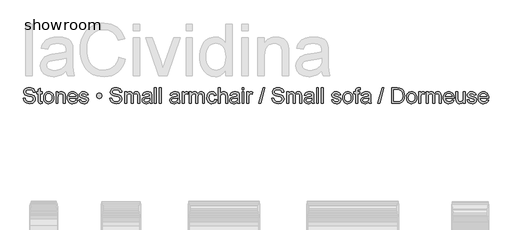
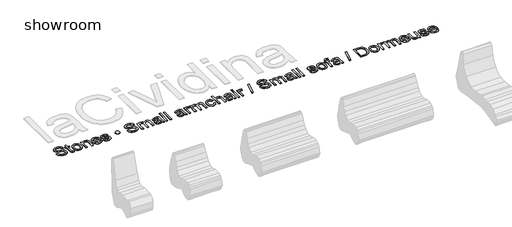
# One storey, part 2 of 2: 1 proxy.
"""IFC4 building model written with IfcOpenShell, lengths in millimetres."""

from ifc_helpers import new_model, si_unit, origin, origin_with_axes, place, context, project, spatial, polyline, outline, extrude, element, save

model = new_model("IFC4")

# Units and contexts
model_context = context("Model", 3, world=origin())
ifc_project = project(units=[si_unit("LENGTHUNIT", "METRE", prefix="MILLI")], contexts=[model_context])

# Site, building, storey
site = spatial("IfcSite", under=ifc_project)
building = spatial("IfcBuilding", under=site)
storey = spatial("IfcBuildingStorey", under=building, Name="showroom", Elevation=0.0)

# Proxy
placement = place(None, origin())
element("IfcBuildingElementProxy", 1, Name="300mm Arial", ObjectType="300mm Arial", at=placement, inside=storey, context=model_context, shape_type="SweptSolid", body=[
    extrude(outline(polyline([(-2004.4887662, 4263.6976505), (-1966.8176499, 4263.6976505), (-1962.4950365, 4242.7927561), (-1954.6775441, 4225.989746), (-1942.482256, 4212.6540237), (-1925.0262553, 4202.1509927), (-1903.6890996, 4195.3359788), (-1879.8503463, 4193.0643074), (-1858.8626785, 4194.7841558), (-1840.4869728, 4199.9437007), (-1825.596949, 4208.110681), (-1815.0663269, 4218.8528353), (-1808.803136, 4231.1860792), (-1806.7154056, 4244.1263284), (-1808.2789041, 4256.7354838), (-1812.9693996, 4267.6339879), (-1822.4975432, 4276.9322053), (-1838.5739864, 4284.7405006), (-1893.4251919, 4299.1246866), (-1929.4316422, 4308.6436333), (-1952.4702521, 4317.7027274), (-1971.2230368, 4330.3762621), (-1984.5127739, 4345.7353354), (-1992.4314339, 4363.4488535), (-1995.0709872, 4383.1857225), (-1991.8060345, 4405.2494452), (-1982.0111763, 4425.8232458), (-1965.9439302, 4443.2608524), (-1943.8618134, 4455.915993), (-1917.3559157, 4463.6139237), (-1888.0173266, 4466.1799007), (-1856.2323222, 4463.4943621), (-1828.4204434, 4455.4377464), (-1805.5749715, 4442.1756005), (-1788.6891879, 4423.8734712), (-1778.0022159, 4401.6717928), (-1773.7531789, 4376.7109994), (-1811.4242952, 4376.7109994), (-1818.3404767, 4399.1885893), (-1832.7614509, 4415.4121853), (-1855.2942231, 4425.2346346), (-1886.5457986, 4428.5087844), (-1918.5331381, 4425.2714228), (-1940.4772991, 4415.5593381), (-1953.1692279, 4401.2671226), (-1957.3998709, 4384.2893685), (-1954.4016326, 4369.813212), (-1945.4069178, 4358.1697469), (-1924.1433385, 4347.7586864), (-1883.8970482, 4337.1268968), (-1842.363171, 4327.028536), (-1817.2368307, 4318.2177622), (-1795.7617192, 4304.5509461), (-1780.779725, 4287.6835566), (-1771.9781482, 4267.7995348), (-1769.0442893, 4245.0828216), (-1772.4196066, 4221.8602706), (-1782.5455586, 4200.0172771), (-1799.0082778, 4181.2185072), (-1821.3938973, 4167.1286268), (-1848.3136622, 4158.32705), (-1878.3788183, 4155.3931911), (-1915.2865795, 4158.5569763), (-1945.6644352, 4168.0483318), (-1969.8618735, 4183.9040458), (-1988.2283821, 4206.1609065), (-2000.019, 4233.2738095), (-2004.4887662, 4263.6976505)])), origin_with_axes(), (0.0, 0.0, 1.0), 5.0),
    extrude(outline(polyline([(-1637.1953823, 4191.5192031), (-1632.4864927, 4158.9984347), (-1660.6662536, 4155.3931911), (-1678.7476536, 4156.9566896), (-1692.2305287, 4161.6471851), (-1701.7586724, 4168.8760663), (-1707.9758781, 4178.054722), (-1711.3971807, 4193.8184655), (-1712.5376149, 4220.8026099), (-1712.5376149, 4343.7487727), (-1740.7909521, 4343.7487727), (-1740.7909521, 4381.419889), (-1712.5376149, 4381.419889), (-1712.5376149, 4435.2042367), (-1674.8664986, 4457.3507328), (-1674.8664986, 4381.419889), (-1637.1953823, 4381.419889), (-1637.1953823, 4343.7487727), (-1674.8664986, 4343.7487727), (-1674.8664986, 4221.9062559), (-1672.8799358, 4202.4820865), (-1666.4420009, 4195.6026932), (-1653.6029193, 4193.0643074), (-1637.1953823, 4191.5192031)])), origin_with_axes(), (0.0, 0.0, 1.0), 5.0),
    extrude(outline(polyline([(-1608.942045, 4270.7609848), (-1606.9048985, 4299.4235908), (-1600.7934588, 4324.1222682), (-1590.6077261, 4344.8570172), (-1576.3477003, 4361.6278376), (-1561.9911054, 4372.3469993), (-1546.1445885, 4380.0035433), (-1528.8081494, 4384.5974697), (-1509.9817883, 4386.1287785), (-1489.1987549, 4384.2640766), (-1470.4068827, 4378.6699711), (-1453.6061718, 4369.3464617), (-1438.7966223, 4356.2935487), (-1426.7093995, 4339.9526903), (-1418.0756689, 4320.765345), (-1412.8954305, 4298.7315128), (-1411.1686844, 4273.8511936), (-1414.222105, 4235.7938012), (-1423.3823667, 4206.8230941), (-1438.382755, 4185.1272534), (-1458.9565556, 4168.8944604), (-1483.3931171, 4158.7685084), (-1509.9817883, 4155.3931911), (-1531.0683244, 4157.2509952), (-1550.0349406, 4162.8244074), (-1566.8816367, 4172.1134278), (-1581.6084128, 4185.1180563), (-1593.5668769, 4201.6175638), (-1602.108637, 4221.3912211), (-1607.233693, 4244.4390281), (-1608.942045, 4270.7609848)]), holes=[polyline([(-1571.2709287, 4270.8345612), (-1566.9115271, 4236.7410973), (-1553.8333222, 4212.4516886), (-1534.1516354, 4197.9111527), (-1509.9817883, 4193.0643074), (-1485.9223058, 4197.9387439), (-1466.2774073, 4212.5620532), (-1453.1992024, 4237.1733587), (-1448.8398007, 4272.0117836), (-1453.2267935, 4305.1119661), (-1466.3877719, 4329.0702811), (-1486.0602616, 4343.6108169), (-1509.9817883, 4348.4576622), (-1534.1516354, 4343.629211), (-1553.8333222, 4329.1438575), (-1566.9115271, 4304.909631), (-1571.2709287, 4270.8345612)])]), origin_with_axes(), (0.0, 0.0, 1.0), 5.0),
    extrude(outline(polyline([(-1368.7886786, 4160.1020807), (-1368.7886786, 4381.419889), (-1331.1175623, 4381.419889), (-1331.1175623, 4350.5178014), (-1318.0301603, 4366.0976039), (-1302.3124021, 4377.2260342), (-1283.9642875, 4383.9030924), (-1262.9858168, 4386.1287785), (-1244.4169731, 4384.3353538), (-1227.4116278, 4378.9550796), (-1213.2297769, 4370.6593406), (-1203.1314162, 4360.1195214), (-1191.8374389, 4332.4180072), (-1189.8508761, 4295.9976897), (-1189.8508761, 4160.1020807), (-1227.5219924, 4160.1020807), (-1227.5219924, 4290.9209182), (-1231.863, 4324.2510269), (-1237.8686736, 4334.1746437), (-1247.2036792, 4341.8725745), (-1259.1690411, 4346.8113903), (-1273.0657834, 4348.4576622), (-1295.1295061, 4344.7604482), (-1313.9374731, 4333.668806), (-1321.4537621, 4324.6143104), (-1326.82254, 4312.2396798), (-1331.1175623, 4277.5300135), (-1331.1175623, 4160.1020807), (-1368.7886786, 4160.1020807)])), origin_with_axes(), (0.0, 0.0, 1.0), 5.0),
    extrude(outline(polyline([(-983.1011948, 4226.0265342), (-946.1658425, 4221.3176447), (-959.4739737, 4193.4873717), (-980.7099619, 4172.6836449), (-1009.3955604, 4159.7158046), (-1045.0525228, 4155.3931911), (-1068.4268251, 4157.257893), (-1089.2535445, 4162.8519986), (-1107.5326812, 4172.1755079), (-1123.264235, 4185.2284209), (-1135.9147771, 4201.6474542), (-1144.9508786, 4221.0693243), (-1150.3725395, 4243.4940312), (-1152.1797598, 4268.9215748), (-1150.3541454, 4295.2113419), (-1144.8773022, 4318.3833091), (-1135.7492302, 4338.4374764), (-1122.9699294, 4355.3738437), (-1107.2797623, 4368.8291277), (-1089.4190914, 4378.4400448), (-1069.3879168, 4384.2065951), (-1047.1862384, 4386.1287785), (-1025.6996306, 4384.2111936), (-1006.2685635, 4378.4584389), (-988.893037, 4368.8705144), (-973.5730512, 4355.4474201), (-961.0673626, 4338.547841), (-952.1347279, 4318.5304619), (-946.7751471, 4295.3952829), (-944.9886201, 4269.142304), (-945.2093493, 4258.988761), (-1114.5086435, 4258.988761), (-1107.9879352, 4230.790606), (-1092.840394, 4210.0604556), (-1070.9790064, 4197.3133445), (-1044.3167588, 4193.0643074), (-1024.2671901, 4195.0324761), (-1007.3814065, 4200.9369821), (-993.6594081, 4211.1457075), (-983.1011948, 4226.0265342)]), holes=[polyline([(-1114.5086435, 4296.6598773), (-982.6597364, 4296.6598773), (-987.7549021, 4316.5622932), (-997.7428982, 4330.7993264), (-1019.7054534, 4344.0430783), (-1047.3333912, 4348.4576622), (-1072.7264459, 4344.9351921), (-1093.7233108, 4334.3677818), (-1108.3190289, 4317.8958655), (-1114.5086435, 4296.6598773)])]), origin_with_axes(), (0.0, 0.0, 1.0), 5.0),
    extrude(outline(polyline([(-921.4441724, 4226.0265342), (-883.7730561, 4230.7354237), (-877.8317619, 4214.6221924), (-866.3354496, 4202.7763921), (-849.2105427, 4195.4923286), (-826.3834649, 4193.0643074), (-803.8322986, 4195.2899935), (-787.9765846, 4201.9670517), (-778.5955937, 4211.6423482), (-775.4685968, 4222.862749), (-778.6139878, 4232.4644691), (-788.050161, 4239.7853208), (-826.8249233, 4250.5274751), (-883.5523269, 4268.958363), (-897.9089218, 4278.2197923), (-908.3107852, 4290.4794598), (-914.6291585, 4304.9556163), (-916.7352829, 4320.8665126), (-915.0430257, 4335.4622307), (-909.9662542, 4348.9359088), (-901.9648208, 4360.7541179), (-891.498578, 4370.3834291), (-867.5494602, 4381.5302536), (-835.1390564, 4386.1287785), (-810.6197214, 4384.2801715), (-789.3009598, 4378.7343504), (-772.1576588, 4370.0339412), (-760.1647058, 4358.7215699), (-752.2184547, 4343.9603048), (-747.2152595, 4324.9132145), (-784.8863758, 4320.204325), (-789.6412506, 4332.0593223), (-799.0498327, 4340.9896577), (-813.2040924, 4346.5906611), (-832.1960004, 4348.4576622), (-853.8274617, 4346.6734345), (-868.2484359, 4341.3207515), (-876.3602339, 4333.5952296), (-879.0641666, 4324.6924853), (-874.5760063, 4313.7296019), (-860.522914, 4305.4154688), (-828.0757221, 4297.3956413), (-772.7830582, 4279.6637291), (-758.178143, 4271.1840491), (-747.1048949, 4259.5773722), (-740.1243341, 4244.8069101), (-737.7974805, 4226.8358746), (-740.5290043, 4208.2578338), (-748.7235757, 4190.7834391), (-762.0684951, 4175.7830507), (-780.2510627, 4164.6270292), (-802.2136178, 4157.7016507), (-826.8984997, 4155.3931911), (-864.8823157, 4159.8445633), (-892.602224, 4173.1986797), (-911.1066884, 4195.3083876), (-921.4441724, 4226.0265342)])), origin_with_axes(), (0.0, 0.0, 1.0), 5.0),
    extrude(outline(polyline([(-582.4041257, 4306.1512328), (-578.596547, 4326.0444516), (-567.1738111, 4342.7554913), (-550.4351803, 4354.0954538), (-530.6799172, 4357.8754413), (-510.8142894, 4354.0954538), (-494.0388705, 4342.7554913), (-482.6161345, 4326.0444516), (-478.8085559, 4306.1512328), (-482.6161345, 4286.285605), (-494.0388705, 4269.510186), (-510.8142894, 4258.0874501), (-530.6799172, 4254.2798714), (-550.4351803, 4258.0874501), (-567.1738111, 4269.510186), (-578.596547, 4286.285605), (-582.4041257, 4306.1512328)])), origin_with_axes(), (0.0, 0.0, 1.0), 5.0),
    extrude(outline(polyline([(-323.4152011, 4263.6976505), (-285.7440848, 4263.6976505), (-281.4214713, 4242.7927561), (-273.6039789, 4225.989746), (-261.4086908, 4212.6540237), (-243.9526901, 4202.1509927), (-222.6155344, 4195.3359788), (-198.7767811, 4193.0643074), (-177.7891133, 4194.7841558), (-159.4134076, 4199.9437007), (-144.5233839, 4208.110681), (-133.9927618, 4218.8528353), (-127.7295708, 4231.1860792), (-125.6418405, 4244.1263284), (-127.205339, 4256.7354838), (-131.8958344, 4267.6339879), (-141.4239781, 4276.9322053), (-157.5004213, 4284.7405006), (-212.3516267, 4299.1246866), (-248.358077, 4308.6436333), (-271.396687, 4317.7027274), (-290.1494717, 4330.3762621), (-303.4392088, 4345.7353354), (-311.3578687, 4363.4488535), (-313.997422, 4383.1857225), (-310.7324693, 4405.2494452), (-300.9376112, 4425.8232458), (-284.870365, 4443.2608524), (-262.7882483, 4455.915993), (-236.2823505, 4463.6139237), (-206.9437614, 4466.1799007), (-175.158757, 4463.4943621), (-147.3468782, 4455.4377464), (-124.5014063, 4442.1756005), (-107.6156227, 4423.8734712), (-96.9286508, 4401.6717928), (-92.6796137, 4376.7109994), (-130.35073, 4376.7109994), (-137.2669115, 4399.1885893), (-151.6878857, 4415.4121853), (-174.2206579, 4425.2346346), (-205.4722334, 4428.5087844), (-237.4595729, 4425.2714228), (-259.4037339, 4415.5593381), (-272.0956628, 4401.2671226), (-276.3263057, 4384.2893685), (-273.3280674, 4369.813212), (-264.3333527, 4358.1697469), (-243.0697733, 4347.7586864), (-202.8234831, 4337.1268968), (-161.2896058, 4327.028536), (-136.1632655, 4318.2177622), (-114.6881541, 4304.5509461), (-99.7061598, 4287.6835566), (-90.9045831, 4267.7995348), (-87.9707242, 4245.0828216), (-91.3460415, 4221.8602706), (-101.4719934, 4200.0172771), (-117.9347127, 4181.2185072), (-140.3203321, 4167.1286268), (-167.2400971, 4158.32705), (-197.3052531, 4155.3931911), (-234.2130143, 4158.5569763), (-264.5908701, 4168.0483318), (-288.7883083, 4183.9040458), (-307.1548169, 4206.1609065), (-318.9454348, 4233.2738095), (-323.4152011, 4263.6976505)])), origin_with_axes(), (0.0, 0.0, 1.0), 5.0),
    extrude(outline(polyline([(-36.1729393, 4160.1020807), (-36.1729393, 4381.419889), (1.4981771, 4381.419889), (1.4981771, 4344.9995714), (12.8289425, 4361.7290052), (27.3970695, 4374.8348013), (44.7059174, 4383.3052842), (64.2588454, 4386.1287785), (85.2097251, 4383.2501019), (102.0035381, 4374.6140721), (114.5483142, 4360.7909061), (122.7520827, 4342.3508211), (136.4832781, 4361.5036775), (152.1458541, 4375.1842892), (169.7398105, 4383.3926562), (189.2651474, 4386.1287785), (217.582864, 4381.5762388), (238.5245465, 4367.9186197), (251.4647957, 4344.7880393), (255.7782121, 4311.8166155), (255.7782121, 4160.1020807), (218.1070958, 4160.1020807), (218.1070958, 4295.6298077), (214.6122169, 4327.0837183), (209.7009922, 4335.7565363), (201.9570762, 4342.5715503), (191.9966712, 4346.9861342), (180.4359795, 4348.4576622), (160.0277258, 4344.6868718), (143.3902626, 4333.3745004), (132.3262116, 4313.747996), (128.6381946, 4285.0348062), (128.6381946, 4160.1020807), (90.9670783, 4160.1020807), (90.9670783, 4299.8236624), (88.7873775, 4321.12403), (82.248275, 4336.3175564), (70.7427656, 4345.4226357), (53.663844, 4348.4576622), (39.1508993, 4346.4343112), (25.7783887, 4340.3642583), (14.7419289, 4330.3946562), (7.2371362, 4316.6726578), (2.9329168, 4297.6347646), (1.4981771, 4271.717478), (1.4981771, 4160.1020807), (-36.1729393, 4160.1020807)])), origin_with_axes(), (0.0, 0.0, 1.0), 5.0),
    extrude(outline(polyline([(453.5515727, 4188.3554179), (435.5529461, 4172.9227682), (417.0208906, 4162.8244074), (397.5323419, 4157.2509952), (376.6642357, 4155.3931911), (345.182734, 4159.8629574), (321.960183, 4173.2722561), (307.6403764, 4193.6345245), (302.8671075, 4218.9631999), (304.6697293, 4234.5797906), (310.0775946, 4248.7616415), (318.4193188, 4260.9017474), (329.0235174, 4270.3931028), (355.4006564, 4282.7539379), (387.9950012, 4288.4193206), (426.5122461, 4294.3790089), (453.3308435, 4301.3687668), (453.5515727, 4309.7564763), (450.9580047, 4326.5686835), (443.1773005, 4337.5683551), (425.7764821, 4345.7353354), (401.5330586, 4348.4576622), (379.0922569, 4346.6458434), (363.4204839, 4341.2103869), (352.7335119, 4331.1580114), (345.2471133, 4315.4954354), (307.575997, 4320.204325), (314.1150995, 4340.8057167), (323.8731694, 4356.9925245), (337.7607147, 4369.3717536), (356.6882434, 4378.5504094), (379.8372179, 4384.2341862), (406.3891009, 4386.1287785), (431.8557321, 4384.4549154), (452.0432565, 4379.4333262), (467.2643741, 4371.8825482), (477.8317844, 4362.621119), (484.8399364, 4351.1707919), (489.3832791, 4337.0533204), (491.222689, 4304.0910936), (491.222689, 4257.2229274), (493.1356754, 4191.7767205), (500.6404681, 4160.1020807), (462.9693518, 4160.1020807), (453.5515727, 4188.3554179)]), holes=[polyline([(453.5515727, 4263.6976505), (392.7774671, 4252.1461559), (360.3670633, 4246.0393147), (345.6885717, 4236.1065009), (340.5382238, 4221.6119503), (343.343324, 4210.4099435), (351.7586247, 4201.2312877), (365.6001847, 4195.1060525), (384.6840632, 4193.0643074), (404.917573, 4195.3175847), (422.7966379, 4202.0774163), (437.2911885, 4212.0378213), (447.3711552, 4223.8928186), (451.8409214, 4236.1065009), (453.3308435, 4253.0290727), (453.5515727, 4263.6976505)])]), origin_with_axes(), (0.0, 0.0, 1.0), 5.0),
    extrude(outline(polyline([(543.020474, 4160.1020807), (543.020474, 4461.4710111), (580.6915903, 4461.4710111), (580.6915903, 4160.1020807), (543.020474, 4160.1020807)])), origin_with_axes(), (0.0, 0.0, 1.0), 5.0),
    extrude(outline(polyline([(637.1982647, 4160.1020807), (637.1982647, 4461.4710111), (674.869381, 4461.4710111), (674.869381, 4160.1020807), (637.1982647, 4160.1020807)])), origin_with_axes(), (0.0, 0.0, 1.0), 5.0),
    extrude(outline(polyline([(990.3649801, 4188.3554179), (972.3663535, 4172.9227682), (953.834298, 4162.8244074), (934.3457493, 4157.2509952), (913.4776431, 4155.3931911), (881.9961414, 4159.8629574), (858.7735904, 4173.2722561), (844.4537837, 4193.6345245), (839.6805149, 4218.9631999), (841.4831366, 4234.5797906), (846.891002, 4248.7616415), (855.2327262, 4260.9017474), (865.8369247, 4270.3931028), (892.2140638, 4282.7539379), (924.8084085, 4288.4193206), (963.3256534, 4294.3790089), (990.1442509, 4301.3687668), (990.3649801, 4309.7564763), (987.771412, 4326.5686835), (979.9907078, 4337.5683551), (962.5898894, 4345.7353354), (938.346466, 4348.4576622), (915.9056643, 4346.6458434), (900.2338913, 4341.2103869), (889.5469193, 4331.1580114), (882.0605207, 4315.4954354), (844.3894044, 4320.204325), (850.9285069, 4340.8057167), (860.6865768, 4356.9925245), (874.5741221, 4369.3717536), (893.5016508, 4378.5504094), (916.6506253, 4384.2341862), (943.2025083, 4386.1287785), (968.6691394, 4384.4549154), (988.8566639, 4379.4333262), (1004.0777815, 4371.8825482), (1014.6451918, 4362.621119), (1021.6533438, 4351.1707919), (1026.1966864, 4337.0533204), (1028.0360964, 4304.0910936), (1028.0360964, 4257.2229274), (1029.9490828, 4191.7767205), (1037.4538755, 4160.1020807), (999.7827592, 4160.1020807), (990.3649801, 4188.3554179)]), holes=[polyline([(990.3649801, 4263.6976505), (929.5908745, 4252.1461559), (897.1804707, 4246.0393147), (882.5019791, 4236.1065009), (877.3516312, 4221.6119503), (880.1567314, 4210.4099435), (888.572032, 4201.2312877), (902.4135921, 4195.1060525), (921.4974706, 4193.0643074), (941.7309803, 4195.3175847), (959.6100453, 4202.0774163), (974.1045959, 4212.0378213), (984.1845626, 4223.8928186), (988.6543288, 4236.1065009), (990.1442509, 4253.0290727), (990.3649801, 4263.6976505)])]), origin_with_axes(), (0.0, 0.0, 1.0), 5.0),
    extrude(outline(polyline([(1079.8338813, 4160.1020807), (1079.8338813, 4381.419889), (1112.7961081, 4381.419889), (1112.7961081, 4348.6783914), (1124.9730021, 4367.6611024), (1136.193403, 4378.844715), (1147.450592, 4384.3077626), (1159.7378507, 4386.1287785), (1178.4998324, 4383.2225107), (1197.5561198, 4374.5037075), (1184.9745555, 4340.7321403), (1171.7308037, 4346.5262817), (1158.4870519, 4348.4576622), (1147.2390599, 4346.5998581), (1137.1866844, 4341.0264459), (1129.0656893, 4332.1604898), (1123.6118387, 4320.4250542), (1119.0317079, 4299.382204), (1117.5049976, 4276.4263675), (1117.5049976, 4160.1020807), (1079.8338813, 4160.1020807)])), origin_with_axes(), (0.0, 0.0, 1.0), 5.0),
    extrude(outline(polyline([(1221.1005675, 4160.1020807), (1221.1005675, 4381.419889), (1258.7716838, 4381.419889), (1258.7716838, 4344.9995714), (1270.1024492, 4361.7290052), (1284.6705762, 4374.8348013), (1301.9794241, 4383.3052842), (1321.5323521, 4386.1287785), (1342.4832318, 4383.2501019), (1359.2770448, 4374.6140721), (1371.8218209, 4360.7909061), (1380.0255894, 4342.3508211), (1393.7567848, 4361.5036775), (1409.4193608, 4375.1842892), (1427.0133172, 4383.3926562), (1446.5386541, 4386.1287785), (1474.8563707, 4381.5762388), (1495.7980533, 4367.9186197), (1508.7383024, 4344.7880393), (1513.0517188, 4311.8166155), (1513.0517188, 4160.1020807), (1475.3806025, 4160.1020807), (1475.3806025, 4295.6298077), (1471.8857236, 4327.0837183), (1466.9744989, 4335.7565363), (1459.2305829, 4342.5715503), (1449.2701779, 4346.9861342), (1437.7094862, 4348.4576622), (1417.3012325, 4344.6868718), (1400.6637693, 4333.3745004), (1389.5997183, 4313.747996), (1385.9117013, 4285.0348062), (1385.9117013, 4160.1020807), (1348.240585, 4160.1020807), (1348.240585, 4299.8236624), (1346.0608842, 4321.12403), (1339.5217817, 4336.3175564), (1328.0162723, 4345.4226357), (1310.9373507, 4348.4576622), (1296.424406, 4346.4343112), (1283.0518954, 4340.3642583), (1272.0154356, 4330.3946562), (1264.5106429, 4316.6726578), (1260.2064235, 4297.6347646), (1258.7716838, 4271.717478), (1258.7716838, 4160.1020807), (1221.1005675, 4160.1020807)])), origin_with_axes(), (0.0, 0.0, 1.0), 5.0),
    extrude(outline(polyline([(1710.8250794, 4240.1532028), (1748.4961957, 4235.4443133), (1737.9931648, 4201.9394606), (1718.2562957, 4176.6199823), (1691.1433927, 4160.6998889), (1658.5122597, 4155.3931911), (1637.3843369, 4157.2440974), (1618.4407134, 4162.7968163), (1601.6813893, 4172.0513477), (1587.1063645, 4185.0076917), (1575.3088487, 4201.4221265), (1566.8820518, 4221.0509302), (1561.8259736, 4243.8941029), (1560.1406142, 4269.9516444), (1563.0192908, 4303.4748912), (1571.6553207, 4332.5283718), (1586.1866595, 4355.9900461), (1606.751263, 4372.7378739), (1631.3533714, 4382.7810524), (1657.9972249, 4386.1287785), (1689.8282146, 4381.5302536), (1715.2764516, 4367.7346787), (1733.5325956, 4345.477818), (1743.7873062, 4315.4954354), (1706.1161899, 4310.7865459), (1699.2827818, 4327.221674), (1688.6417951, 4339.0030949), (1674.781841, 4346.0940204), (1658.2915305, 4348.4576622), (1633.9469395, 4343.803955), (1614.6239377, 4329.8428332), (1602.0147823, 4305.820139), (1597.8117305, 4270.981714), (1601.9228118, 4235.6742395), (1614.2560557, 4211.5687718), (1633.2295696, 4197.6904235), (1657.2614609, 4193.0643074), (1676.7684037, 4195.9521811), (1692.7620735, 4204.6158021), (1704.3963416, 4219.2758996), (1710.8250794, 4240.1532028)])), origin_with_axes(), (0.0, 0.0, 1.0), 5.0),
    extrude(outline(polyline([(1781.4584225, 4160.1020807), (1781.4584225, 4461.4710111), (1819.1295388, 4461.4710111), (1819.1295388, 4350.6649542), (1832.9665004, 4366.1803773), (1848.5049161, 4377.2628224), (1865.7447861, 4383.9122895), (1884.6861104, 4386.1287785), (1907.4396118, 4383.7099544), (1926.9925398, 4376.453482), (1942.3884013, 4364.9295785), (1952.6707031, 4349.708461), (1958.4648445, 4328.7943696), (1960.396225, 4300.1915444), (1960.396225, 4160.1020807), (1922.7251087, 4160.1020807), (1922.7251087, 4296.2919953), (1919.7268704, 4319.8732312), (1910.7321556, 4336.0232508), (1896.237605, 4345.3490593), (1876.7398593, 4348.4576622), (1860.8197659, 4346.3607348), (1845.8745599, 4340.0699527), (1833.4953307, 4330.1923211), (1825.2731681, 4317.3348454), (1820.6654461, 4300.2467267), (1819.1295388, 4277.6771663), (1819.1295388, 4160.1020807), (1781.4584225, 4160.1020807)])), origin_with_axes(), (0.0, 0.0, 1.0), 5.0),
    extrude(outline(polyline([(2153.460696, 4188.3554179), (2135.4620694, 4172.9227682), (2116.9300139, 4162.8244074), (2097.4414652, 4157.2509952), (2076.573359, 4155.3931911), (2045.0918573, 4159.8629574), (2021.8693064, 4173.2722561), (2007.5494997, 4193.6345245), (2002.7762308, 4218.9631999), (2004.5788526, 4234.5797906), (2009.9867179, 4248.7616415), (2018.3284422, 4260.9017474), (2028.9326407, 4270.3931028), (2055.3097797, 4282.7539379), (2087.9041245, 4288.4193206), (2126.4213694, 4294.3790089), (2153.2399668, 4301.3687668), (2153.460696, 4309.7564763), (2150.867128, 4326.5686835), (2143.0864238, 4337.5683551), (2125.6856054, 4345.7353354), (2101.4421819, 4348.4576622), (2079.0013802, 4346.6458434), (2063.3296072, 4341.2103869), (2052.6426353, 4331.1580114), (2045.1562367, 4315.4954354), (2007.4851204, 4320.204325), (2014.0242228, 4340.8057167), (2023.7822927, 4356.9925245), (2037.6698381, 4369.3717536), (2056.5973667, 4378.5504094), (2079.7463413, 4384.2341862), (2106.2982243, 4386.1287785), (2131.7648554, 4384.4549154), (2151.9523799, 4379.4333262), (2167.1734974, 4371.8825482), (2177.7409077, 4362.621119), (2184.7490597, 4351.1707919), (2189.2924024, 4337.0533204), (2191.1318123, 4304.0910936), (2191.1318123, 4257.2229274), (2193.0447987, 4191.7767205), (2200.5495914, 4160.1020807), (2162.8784751, 4160.1020807), (2153.460696, 4188.3554179)]), holes=[polyline([(2153.460696, 4263.6976505), (2092.6865904, 4252.1461559), (2060.2761867, 4246.0393147), (2045.5976951, 4236.1065009), (2040.4473471, 4221.6119503), (2043.2524473, 4210.4099435), (2051.667748, 4201.2312877), (2065.509308, 4195.1060525), (2084.5931865, 4193.0643074), (2104.8266963, 4195.3175847), (2122.7057612, 4202.0774163), (2137.2003118, 4212.0378213), (2147.2802785, 4223.8928186), (2151.7500448, 4236.1065009), (2153.2399668, 4253.0290727), (2153.460696, 4263.6976505)])]), origin_with_axes(), (0.0, 0.0, 1.0), 5.0),
    extrude(outline(polyline([(2242.9295973, 4160.1020807), (2242.9295973, 4381.419889), (2280.6007136, 4381.419889), (2280.6007136, 4160.1020807), (2242.9295973, 4160.1020807)])), origin_with_axes(), (0.0, 0.0, 1.0), 5.0),
    extrude(outline(polyline([(2242.9295973, 4423.7998948), (2242.9295973, 4461.4710111), (2280.6007136, 4461.4710111), (2280.6007136, 4423.7998948), (2242.9295973, 4423.7998948)])), origin_with_axes(), (0.0, 0.0, 1.0), 5.0),
    extrude(outline(polyline([(2337.107388, 4160.1020807), (2337.107388, 4381.419889), (2370.0696148, 4381.419889), (2370.0696148, 4348.6783914), (2382.2465088, 4367.6611024), (2393.4669097, 4378.844715), (2404.7240987, 4384.3077626), (2417.0113574, 4386.1287785), (2435.7733391, 4383.2225107), (2454.8296265, 4374.5037075), (2442.2480623, 4340.7321403), (2429.0043104, 4346.5262817), (2415.7605586, 4348.4576622), (2404.5125666, 4346.5998581), (2394.4601911, 4341.0264459), (2386.339196, 4332.1604898), (2380.8853455, 4320.4250542), (2376.3052146, 4299.382204), (2374.7785043, 4276.4263675), (2374.7785043, 4160.1020807), (2337.107388, 4160.1020807)])), origin_with_axes(), (0.0, 0.0, 1.0), 5.0),
    extrude(outline(polyline([(2567.8429754, 4160.1020807), (2652.6029871, 4461.4710111), (2686.5952834, 4461.4710111), (2601.8352718, 4160.1020807), (2567.8429754, 4160.1020807)])), origin_with_axes(), (0.0, 0.0, 1.0), 5.0),
    extrude(outline(polyline([(2822.1230105, 4263.6976505), (2859.7941268, 4263.6976505), (2864.1167402, 4242.7927561), (2871.9342326, 4225.989746), (2884.1295208, 4212.6540237), (2901.5855214, 4202.1509927), (2922.9226771, 4195.3359788), (2946.7614304, 4193.0643074), (2967.7490983, 4194.7841558), (2986.1248039, 4199.9437007), (3001.0148277, 4208.110681), (3011.5454498, 4218.8528353), (3017.8086408, 4231.1860792), (3019.8963711, 4244.1263284), (3018.3328726, 4256.7354838), (3013.6423772, 4267.6339879), (3004.1142335, 4276.9322053), (2988.0377903, 4284.7405006), (2933.1865848, 4299.1246866), (2897.1801345, 4308.6436333), (2874.1415246, 4317.7027274), (2855.3887399, 4330.3762621), (2842.0990028, 4345.7353354), (2834.1803429, 4363.4488535), (2831.5407895, 4383.1857225), (2834.8057423, 4405.2494452), (2844.6006004, 4425.8232458), (2860.6678465, 4443.2608524), (2882.7499633, 4455.915993), (2909.255861, 4463.6139237), (2938.5944501, 4466.1799007), (2970.3794545, 4463.4943621), (2998.1913334, 4455.4377464), (3021.0368053, 4442.1756005), (3037.9225888, 4423.8734712), (3048.6095608, 4401.6717928), (3052.8585978, 4376.7109994), (3015.1874815, 4376.7109994), (3008.2713, 4399.1885893), (2993.8503258, 4415.4121853), (2971.3175536, 4425.2346346), (2940.0659781, 4428.5087844), (2908.0786386, 4425.2714228), (2886.1344776, 4415.5593381), (2873.4425488, 4401.2671226), (2869.2119059, 4384.2893685), (2872.2101441, 4369.813212), (2881.2048589, 4358.1697469), (2902.4684382, 4347.7586864), (2942.7147285, 4337.1268968), (2984.2486057, 4327.028536), (3009.374946, 4318.2177622), (3030.8500575, 4304.5509461), (3045.8320517, 4287.6835566), (3054.6336285, 4267.7995348), (3057.5674874, 4245.0828216), (3054.1921701, 4221.8602706), (3044.0662182, 4200.0172771), (3027.6034989, 4181.2185072), (3005.2178795, 4167.1286268), (2978.2981145, 4158.32705), (2948.2329584, 4155.3931911), (2911.3251973, 4158.5569763), (2880.9473415, 4168.0483318), (2856.7499033, 4183.9040458), (2838.3833947, 4206.1609065), (2826.5927767, 4233.2738095), (2822.1230105, 4263.6976505)])), origin_with_axes(), (0.0, 0.0, 1.0), 5.0),
    extrude(outline(polyline([(3109.3652723, 4160.1020807), (3109.3652723, 4381.419889), (3147.0363886, 4381.419889), (3147.0363886, 4344.9995714), (3158.3671541, 4361.7290052), (3172.9352811, 4374.8348013), (3190.2441289, 4383.3052842), (3209.797057, 4386.1287785), (3230.7479366, 4383.2501019), (3247.5417497, 4374.6140721), (3260.0865257, 4360.7909061), (3268.2902942, 4342.3508211), (3282.0214897, 4361.5036775), (3297.6840656, 4375.1842892), (3315.2780221, 4383.3926562), (3334.8033589, 4386.1287785), (3363.1210755, 4381.5762388), (3384.0627581, 4367.9186197), (3397.0030073, 4344.7880393), (3401.3164237, 4311.8166155), (3401.3164237, 4160.1020807), (3363.6453074, 4160.1020807), (3363.6453074, 4295.6298077), (3360.1504284, 4327.0837183), (3355.2392038, 4335.7565363), (3347.4952878, 4342.5715503), (3337.5348828, 4346.9861342), (3325.9741911, 4348.4576622), (3305.5659374, 4344.6868718), (3288.9284741, 4333.3745004), (3277.8644231, 4313.747996), (3274.1764061, 4285.0348062), (3274.1764061, 4160.1020807), (3236.5052898, 4160.1020807), (3236.5052898, 4299.8236624), (3234.325589, 4321.12403), (3227.7864866, 4336.3175564), (3216.2809772, 4345.4226357), (3199.2020555, 4348.4576622), (3184.6891108, 4346.4343112), (3171.3166003, 4340.3642583), (3160.2801404, 4330.3946562), (3152.7753477, 4316.6726578), (3148.4711284, 4297.6347646), (3147.0363886, 4271.717478), (3147.0363886, 4160.1020807), (3109.3652723, 4160.1020807)])), origin_with_axes(), (0.0, 0.0, 1.0), 5.0),
    extrude(outline(polyline([(3599.0897843, 4188.3554179), (3581.0911577, 4172.9227682), (3562.5591022, 4162.8244074), (3543.0705535, 4157.2509952), (3522.2024473, 4155.3931911), (3490.7209456, 4159.8629574), (3467.4983946, 4173.2722561), (3453.1785879, 4193.6345245), (3448.4053191, 4218.9631999), (3450.2079408, 4234.5797906), (3455.6158062, 4248.7616415), (3463.9575304, 4260.9017474), (3474.5617289, 4270.3931028), (3500.938868, 4282.7539379), (3533.5332127, 4288.4193206), (3572.0504576, 4294.3790089), (3598.8690551, 4301.3687668), (3599.0897843, 4309.7564763), (3596.4962162, 4326.5686835), (3588.715512, 4337.5683551), (3571.3146936, 4345.7353354), (3547.0712702, 4348.4576622), (3524.6304685, 4346.6458434), (3508.9586955, 4341.2103869), (3498.2717235, 4331.1580114), (3490.7853249, 4315.4954354), (3453.1142086, 4320.204325), (3459.6533111, 4340.8057167), (3469.411381, 4356.9925245), (3483.2989263, 4369.3717536), (3502.226455, 4378.5504094), (3525.3754295, 4384.2341862), (3551.9273125, 4386.1287785), (3577.3939436, 4384.4549154), (3597.5814681, 4379.4333262), (3612.8025857, 4371.8825482), (3623.369996, 4362.621119), (3630.378148, 4351.1707919), (3634.9214906, 4337.0533204), (3636.7609006, 4304.0910936), (3636.7609006, 4257.2229274), (3638.673887, 4191.7767205), (3646.1786797, 4160.1020807), (3608.5075634, 4160.1020807), (3599.0897843, 4188.3554179)]), holes=[polyline([(3599.0897843, 4263.6976505), (3538.3156787, 4252.1461559), (3505.9052749, 4246.0393147), (3491.2267833, 4236.1065009), (3486.0764354, 4221.6119503), (3488.8815356, 4210.4099435), (3497.2968362, 4201.2312877), (3511.1383963, 4195.1060525), (3530.2222748, 4193.0643074), (3550.4557845, 4195.3175847), (3568.3348495, 4202.0774163), (3582.8294001, 4212.0378213), (3592.9093668, 4223.8928186), (3597.379133, 4236.1065009), (3598.8690551, 4253.0290727), (3599.0897843, 4263.6976505)])]), origin_with_axes(), (0.0, 0.0, 1.0), 5.0),
    extrude(outline(polyline([(3688.5586855, 4160.1020807), (3688.5586855, 4461.4710111), (3726.2298018, 4461.4710111), (3726.2298018, 4160.1020807), (3688.5586855, 4160.1020807)])), origin_with_axes(), (0.0, 0.0, 1.0), 5.0),
    extrude(outline(polyline([(3782.7364763, 4160.1020807), (3782.7364763, 4461.4710111), (3820.4075926, 4461.4710111), (3820.4075926, 4160.1020807), (3782.7364763, 4160.1020807)])), origin_with_axes(), (0.0, 0.0, 1.0), 5.0),
    extrude(outline(polyline([(3980.5098369, 4226.0265342), (4018.1809532, 4230.7354237), (4024.1222474, 4214.6221924), (4035.6185598, 4202.7763921), (4052.7434666, 4195.4923286), (4075.5705444, 4193.0643074), (4098.1217107, 4195.2899935), (4113.9774247, 4201.9670517), (4123.3584156, 4211.6423482), (4126.4854126, 4222.862749), (4123.3400215, 4232.4644691), (4113.9038483, 4239.7853208), (4075.129086, 4250.5274751), (4018.4016824, 4268.958363), (4004.0450875, 4278.2197923), (3993.6432241, 4290.4794598), (3987.3248508, 4304.9556163), (3985.2187264, 4320.8665126), (3986.9109836, 4335.4622307), (3991.9877551, 4348.9359088), (3999.9891885, 4360.7541179), (4010.4554313, 4370.3834291), (4034.4045492, 4381.5302536), (4066.814953, 4386.1287785), (4091.3342879, 4384.2801715), (4112.6530495, 4378.7343504), (4129.7963505, 4370.0339412), (4141.7893036, 4358.7215699), (4149.7355547, 4343.9603048), (4154.7387498, 4324.9132145), (4117.0676335, 4320.204325), (4112.3127587, 4332.0593223), (4102.9041767, 4340.9896577), (4088.7499169, 4346.5906611), (4069.7580089, 4348.4576622), (4048.1265476, 4346.6734345), (4033.7055734, 4341.3207515), (4025.5937754, 4333.5952296), (4022.8898427, 4324.6924853), (4027.3780031, 4313.7296019), (4041.4310953, 4305.4154688), (4073.8782873, 4297.3956413), (4129.1709511, 4279.6637291), (4143.7758663, 4271.1840491), (4154.8491144, 4259.5773722), (4161.8296753, 4244.8069101), (4164.1565289, 4226.8358746), (4161.4250051, 4208.2578338), (4153.2304336, 4190.7834391), (4139.8855142, 4175.7830507), (4121.7029466, 4164.6270292), (4099.7403915, 4157.7016507), (4075.0555096, 4155.3931911), (4037.0716936, 4159.8445633), (4009.3517853, 4173.1986797), (3990.8473209, 4195.3083876), (3980.5098369, 4226.0265342)])), origin_with_axes(), (0.0, 0.0, 1.0), 5.0),
    extrude(outline(polyline([(4197.1187556, 4270.7609848), (4199.1559022, 4299.4235908), (4205.2673418, 4324.1222682), (4215.4530746, 4344.8570172), (4229.7131004, 4361.6278376), (4244.0696953, 4372.3469993), (4259.9162122, 4380.0035433), (4277.2526512, 4384.5974697), (4296.0790123, 4386.1287785), (4316.8620458, 4384.2640766), (4335.653918, 4378.6699711), (4352.4546288, 4369.3464617), (4367.2641784, 4356.2935487), (4379.3514012, 4339.9526903), (4387.9851318, 4320.765345), (4393.1653701, 4298.7315128), (4394.8921162, 4273.8511936), (4391.8386957, 4235.7938012), (4382.678434, 4206.8230941), (4367.6780457, 4185.1272534), (4347.1042451, 4168.8944604), (4322.6676835, 4158.7685084), (4296.0790123, 4155.3931911), (4274.9924762, 4157.2509952), (4256.0258601, 4162.8244074), (4239.179164, 4172.1134278), (4224.4523879, 4185.1180563), (4212.4939238, 4201.6175638), (4203.9521637, 4221.3912211), (4198.8271077, 4244.4390281), (4197.1187556, 4270.7609848)]), holes=[polyline([(4234.7898719, 4270.8345612), (4239.1492736, 4236.7410973), (4252.2274785, 4212.4516886), (4271.9091653, 4197.9111527), (4296.0790123, 4193.0643074), (4320.1384948, 4197.9387439), (4339.7833934, 4212.5620532), (4352.8615983, 4237.1733587), (4357.2209999, 4272.0117836), (4352.8340072, 4305.1119661), (4339.6730288, 4329.0702811), (4320.0005391, 4343.6108169), (4296.0790123, 4348.4576622), (4271.9091653, 4343.629211), (4252.2274785, 4329.1438575), (4239.1492736, 4304.909631), (4234.7898719, 4270.8345612)])]), origin_with_axes(), (0.0, 0.0, 1.0), 5.0),
    extrude(outline(polyline([(4446.6899012, 4160.1020807), (4446.6899012, 4343.7487727), (4413.7276744, 4343.7487727), (4413.7276744, 4381.419889), (4446.6899012, 4381.419889), (4446.6899012, 4403.7135379), (4450.6630267, 4435.1306603), (4458.2413958, 4447.6570422), (4469.9400433, 4457.571462), (4486.3107921, 4464.027791), (4507.9054652, 4466.1799007), (4542.2656435, 4462.0596223), (4536.7474136, 4426.7429508), (4515.0423759, 4428.5087844), (4500.7225692, 4426.9452859), (4491.3139872, 4422.2547904), (4486.0992599, 4413.2968639), (4484.3610175, 4398.9310719), (4484.3610175, 4381.419889), (4526.7410233, 4381.419889), (4526.7410233, 4343.7487727), (4484.3610175, 4343.7487727), (4484.3610175, 4160.1020807), (4446.6899012, 4160.1020807)])), origin_with_axes(), (0.0, 0.0, 1.0), 5.0),
    extrude(outline(polyline([(4700.9699362, 4188.3554179), (4682.9713096, 4172.9227682), (4664.4392541, 4162.8244074), (4644.9507054, 4157.2509952), (4624.0825992, 4155.3931911), (4592.6010975, 4159.8629574), (4569.3785466, 4173.2722561), (4555.0587399, 4193.6345245), (4550.285471, 4218.9631999), (4552.0880928, 4234.5797906), (4557.4959581, 4248.7616415), (4565.8376824, 4260.9017474), (4576.4418809, 4270.3931028), (4602.8190199, 4282.7539379), (4635.4133647, 4288.4193206), (4673.9306096, 4294.3790089), (4700.749207, 4301.3687668), (4700.9699362, 4309.7564763), (4698.3763682, 4326.5686835), (4690.595664, 4337.5683551), (4673.1948456, 4345.7353354), (4648.9514221, 4348.4576622), (4626.5106204, 4346.6458434), (4610.8388474, 4341.2103869), (4600.1518755, 4331.1580114), (4592.6654769, 4315.4954354), (4554.9943606, 4320.204325), (4561.533463, 4340.8057167), (4571.2915329, 4356.9925245), (4585.1790783, 4369.3717536), (4604.1066069, 4378.5504094), (4627.2555815, 4384.2341862), (4653.8074645, 4386.1287785), (4679.2740956, 4384.4549154), (4699.4616201, 4379.4333262), (4714.6827376, 4371.8825482), (4725.2501479, 4362.621119), (4732.2582999, 4351.1707919), (4736.8016426, 4337.0533204), (4738.6410525, 4304.0910936), (4738.6410525, 4257.2229274), (4740.5540389, 4191.7767205), (4748.0588316, 4160.1020807), (4710.3877153, 4160.1020807), (4700.9699362, 4188.3554179)]), holes=[polyline([(4700.9699362, 4263.6976505), (4640.1958306, 4252.1461559), (4607.7854269, 4246.0393147), (4593.1069353, 4236.1065009), (4587.9565873, 4221.6119503), (4590.7616875, 4210.4099435), (4599.1769882, 4201.2312877), (4613.0185482, 4195.1060525), (4632.1024267, 4193.0643074), (4652.3359365, 4195.3175847), (4670.2150014, 4202.0774163), (4684.709552, 4212.0378213), (4694.7895187, 4223.8928186), (4699.259285, 4236.1065009), (4700.749207, 4253.0290727), (4700.9699362, 4263.6976505)])]), origin_with_axes(), (0.0, 0.0, 1.0), 5.0),
    extrude(outline(polyline([(4879.9077387, 4160.1020807), (4964.6677504, 4461.4710111), (4998.6600467, 4461.4710111), (4913.900035, 4160.1020807), (4879.9077387, 4160.1020807)])), origin_with_axes(), (0.0, 0.0, 1.0), 5.0),
    extrude(outline(polyline([(5148.3144424, 4160.1020807), (5148.3144424, 4461.4710111), (5252.2778942, 4461.4710111), (5306.0622419, 4457.1300036), (5330.0849362, 4448.7606882), (5350.3552341, 4435.5721187), (5371.1957491, 4412.6162822), (5386.0397877, 4384.0686393), (5394.9241378, 4350.4810132), (5397.8855879, 4312.4052267), (5395.880631, 4280.0592022), (5389.8657604, 4251.5943329), (5380.7054987, 4227.3601064), (5369.2643687, 4207.7060108), (5356.0941932, 4192.1905877), (5341.7467954, 4180.3723786), (5325.2748791, 4171.6075901), (5305.7311481, 4165.2524286), (5257.2810893, 4160.1020807), (5148.3144424, 4160.1020807)]), holes=[polyline([(5185.9855587, 4197.773197), (5252.6457762, 4197.773197), (5280.2185317, 4199.1343604), (5301.1326232, 4203.2178505), (5316.9147608, 4209.7845441), (5329.0916548, 4218.5953179), (5342.1790568, 4234.9016873), (5352.0107031, 4256.0089168), (5358.1635295, 4282.0089768), (5360.2144716, 4312.9938379), (5356.1953608, 4354.0494685), (5344.1380284, 4384.3629449), (5326.3233428, 4405.1850659), (5305.0321723, 4417.7666301), (5283.3639228, 4422.2915786), (5251.6157066, 4423.7998948), (5185.9855587, 4423.7998948), (5185.9855587, 4197.773197)])]), origin_with_axes(), (0.0, 0.0, 1.0), 5.0),
    extrude(outline(polyline([(5435.5567042, 4270.7609848), (5437.5938508, 4299.4235908), (5443.7052904, 4324.1222682), (5453.8910231, 4344.8570172), (5468.151049, 4361.6278376), (5482.5076438, 4372.3469993), (5498.3541608, 4380.0035433), (5515.6905998, 4384.5974697), (5534.5169609, 4386.1287785), (5555.2999944, 4384.2640766), (5574.0918665, 4378.6699711), (5590.8925774, 4369.3464617), (5605.702127, 4356.2935487), (5617.7893498, 4339.9526903), (5626.4230804, 4320.765345), (5631.6033187, 4298.7315128), (5633.3300648, 4273.8511936), (5630.2766443, 4235.7938012), (5621.1163826, 4206.8230941), (5606.1159942, 4185.1272534), (5585.5421936, 4168.8944604), (5561.1056321, 4158.7685084), (5534.5169609, 4155.3931911), (5513.4304248, 4157.2509952), (5494.4638087, 4162.8244074), (5477.6171126, 4172.1134278), (5462.8903364, 4185.1180563), (5450.9318723, 4201.6175638), (5442.3901123, 4221.3912211), (5437.2650562, 4244.4390281), (5435.5567042, 4270.7609848)]), holes=[polyline([(5473.2278205, 4270.8345612), (5477.5872222, 4236.7410973), (5490.6654271, 4212.4516886), (5510.3471138, 4197.9111527), (5534.5169609, 4193.0643074), (5558.5764434, 4197.9387439), (5578.2213419, 4212.5620532), (5591.2995469, 4237.1733587), (5595.6589485, 4272.0117836), (5591.2719557, 4305.1119661), (5578.1109773, 4329.0702811), (5558.4384876, 4343.6108169), (5534.5169609, 4348.4576622), (5510.3471138, 4343.629211), (5490.6654271, 4329.1438575), (5477.5872222, 4304.909631), (5473.2278205, 4270.8345612)])]), origin_with_axes(), (0.0, 0.0, 1.0), 5.0),
    extrude(outline(polyline([(5675.7100707, 4160.1020807), (5675.7100707, 4381.419889), (5708.6722974, 4381.419889), (5708.6722974, 4348.6783914), (5720.8491915, 4367.6611024), (5732.0695923, 4378.844715), (5743.3267814, 4384.3077626), (5755.61404, 4386.1287785), (5774.3760218, 4383.2225107), (5793.4323091, 4374.5037075), (5780.8507449, 4340.7321403), (5767.6069931, 4346.5262817), (5754.3632412, 4348.4576622), (5743.1152492, 4346.5998581), (5733.0628737, 4341.0264459), (5724.9418787, 4332.1604898), (5719.4880281, 4320.4250542), (5714.9078972, 4299.382204), (5713.381187, 4276.4263675), (5713.381187, 4160.1020807), (5675.7100707, 4160.1020807)])), origin_with_axes(), (0.0, 0.0, 1.0), 5.0),
    extrude(outline(polyline([(5816.9767568, 4160.1020807), (5816.9767568, 4381.419889), (5854.6478731, 4381.419889), (5854.6478731, 4344.9995714), (5865.9786386, 4361.7290052), (5880.5467656, 4374.8348013), (5897.8556134, 4383.3052842), (5917.4085415, 4386.1287785), (5938.3594211, 4383.2501019), (5955.1532342, 4374.6140721), (5967.6980102, 4360.7909061), (5975.9017787, 4342.3508211), (5989.6329742, 4361.5036775), (6005.2955501, 4375.1842892), (6022.8895066, 4383.3926562), (6042.4148434, 4386.1287785), (6070.73256, 4381.5762388), (6091.6742426, 4367.9186197), (6104.6144918, 4344.7880393), (6108.9279082, 4311.8166155), (6108.9279082, 4160.1020807), (6071.2567919, 4160.1020807), (6071.2567919, 4295.6298077), (6067.7619129, 4327.0837183), (6062.8506883, 4335.7565363), (6055.1067723, 4342.5715503), (6045.1463673, 4346.9861342), (6033.5856756, 4348.4576622), (6013.1774219, 4344.6868718), (5996.5399587, 4333.3745004), (5985.4759076, 4313.747996), (5981.7878906, 4285.0348062), (5981.7878906, 4160.1020807), (5944.1167743, 4160.1020807), (5944.1167743, 4299.8236624), (5941.9370735, 4321.12403), (5935.3979711, 4336.3175564), (5923.8924617, 4345.4226357), (5906.81354, 4348.4576622), (5892.3005953, 4346.4343112), (5878.9280848, 4340.3642583), (5867.8916249, 4330.3946562), (5860.3868322, 4316.6726578), (5856.0826129, 4297.6347646), (5854.6478731, 4271.717478), (5854.6478731, 4160.1020807), (5816.9767568, 4160.1020807)])), origin_with_axes(), (0.0, 0.0, 1.0), 5.0),
    extrude(outline(polyline([(6320.386479, 4226.0265342), (6357.3218313, 4221.3176447), (6344.0137001, 4193.4873717), (6322.777712, 4172.6836449), (6294.0921134, 4159.7158046), (6258.435151, 4155.3931911), (6235.0608487, 4157.257893), (6214.2341293, 4162.8519986), (6195.9549927, 4172.1755079), (6180.2234388, 4185.2284209), (6167.5728967, 4201.6474542), (6158.5367952, 4221.0693243), (6153.1151343, 4243.4940312), (6151.307914, 4268.9215748), (6153.1335284, 4295.2113419), (6158.6103716, 4318.3833091), (6167.7384436, 4338.4374764), (6180.5177444, 4355.3738437), (6196.2079115, 4368.8291277), (6214.0685824, 4378.4400448), (6234.099757, 4384.2065951), (6256.3014354, 4386.1287785), (6277.7880432, 4384.2111936), (6297.2191104, 4378.4584389), (6314.5946368, 4368.8705144), (6329.9146227, 4355.4474201), (6342.4203113, 4338.547841), (6351.3529459, 4318.5304619), (6356.7125268, 4295.3952829), (6358.4990537, 4269.142304), (6358.2783245, 4258.988761), (6188.9790303, 4258.988761), (6195.4997387, 4230.790606), (6210.6472798, 4210.0604556), (6232.5086674, 4197.3133445), (6259.170915, 4193.0643074), (6279.2204837, 4195.0324761), (6296.1062673, 4200.9369821), (6309.8282657, 4211.1457075), (6320.386479, 4226.0265342)]), holes=[polyline([(6188.9790303, 4296.6598773), (6320.8279374, 4296.6598773), (6315.7327718, 4316.5622932), (6305.7447756, 4330.7993264), (6283.7822205, 4344.0430783), (6256.1542826, 4348.4576622), (6230.7612279, 4344.9351921), (6209.7643631, 4334.3677818), (6195.1686449, 4317.8958655), (6188.9790303, 4296.6598773)])]), origin_with_axes(), (0.0, 0.0, 1.0), 5.0),
    extrude(outline(polyline([(6537.4368562, 4160.1020807), (6537.4368562, 4198.141079), (6523.8068282, 4179.438878), (6507.9327201, 4166.0801631), (6489.8145319, 4158.0649341), (6469.4522635, 4155.3931911), (6451.1041489, 4157.2693893), (6434.0252273, 4162.8979838), (6419.6962236, 4171.3592697), (6409.5978628, 4181.733542), (6398.377462, 4209.4718444), (6396.17017, 4244.4942104), (6396.17017, 4381.419889), (6433.8412863, 4381.419889), (6433.8412863, 4262.2261225), (6436.1221547, 4223.8192422), (6441.6127935, 4211.0077518), (6451.0213755, 4201.2680759), (6463.7225014, 4195.1152496), (6479.0907717, 4193.0643074), (6495.3419589, 4195.1612348), (6510.5446823, 4201.4520169), (6523.0802613, 4211.3572396), (6531.330015, 4224.2974888), (6535.9101459, 4242.0202039), (6537.4368562, 4266.2728245), (6537.4368562, 4381.419889), (6575.1079725, 4381.419889), (6575.1079725, 4160.1020807), (6537.4368562, 4160.1020807)])), origin_with_axes(), (0.0, 0.0, 1.0), 5.0),
    extrude(outline(polyline([(6612.7790888, 4226.0265342), (6650.4502051, 4230.7354237), (6656.3914993, 4214.6221924), (6667.8878116, 4202.7763921), (6685.0127185, 4195.4923286), (6707.8397963, 4193.0643074), (6730.3909626, 4195.2899935), (6746.2466766, 4201.9670517), (6755.6276675, 4211.6423482), (6758.7546645, 4222.862749), (6755.6092734, 4232.4644691), (6746.1731002, 4239.7853208), (6707.3983379, 4250.5274751), (6650.6709343, 4268.958363), (6636.3143394, 4278.2197923), (6625.912476, 4290.4794598), (6619.5941027, 4304.9556163), (6617.4879783, 4320.8665126), (6619.1802355, 4335.4622307), (6624.257007, 4348.9359088), (6632.2584404, 4360.7541179), (6642.7246832, 4370.3834291), (6666.6738011, 4381.5302536), (6699.0842048, 4386.1287785), (6723.6035398, 4384.2801715), (6744.9223014, 4378.7343504), (6762.0656024, 4370.0339412), (6774.0585555, 4358.7215699), (6782.0048066, 4343.9603048), (6787.0080017, 4324.9132145), (6749.3368854, 4320.204325), (6744.5820106, 4332.0593223), (6735.1734286, 4340.9896577), (6721.0191688, 4346.5906611), (6702.0272608, 4348.4576622), (6680.3957995, 4346.6734345), (6665.9748253, 4341.3207515), (6657.8630273, 4333.5952296), (6655.1590946, 4324.6924853), (6659.647255, 4313.7296019), (6673.7003472, 4305.4154688), (6706.1475391, 4297.3956413), (6761.440203, 4279.6637291), (6776.0451182, 4271.1840491), (6787.1183663, 4259.5773722), (6794.0989271, 4244.8069101), (6796.4257808, 4226.8358746), (6793.6942569, 4208.2578338), (6785.4996855, 4190.7834391), (6772.1547661, 4175.7830507), (6753.9721985, 4164.6270292), (6732.0096434, 4157.7016507), (6707.3247615, 4155.3931911), (6669.3409455, 4159.8445633), (6641.6210372, 4173.1986797), (6623.1165728, 4195.3083876), (6612.7790888, 4226.0265342)])), origin_with_axes(), (0.0, 0.0, 1.0), 5.0),
    extrude(outline(polyline([(6993.757683, 4226.0265342), (7030.6930353, 4221.3176447), (7017.3849041, 4193.4873717), (6996.1489159, 4172.6836449), (6967.4633174, 4159.7158046), (6931.806355, 4155.3931911), (6908.4320527, 4157.257893), (6887.6053333, 4162.8519986), (6869.3261966, 4172.1755079), (6853.5946428, 4185.2284209), (6840.9441007, 4201.6474542), (6831.9079992, 4221.0693243), (6826.4863383, 4243.4940312), (6824.679118, 4268.9215748), (6826.5047324, 4295.2113419), (6831.9815756, 4318.3833091), (6841.1096476, 4338.4374764), (6853.8889484, 4355.3738437), (6869.5791155, 4368.8291277), (6887.4397864, 4378.4400448), (6907.470961, 4384.2065951), (6929.6726394, 4386.1287785), (6951.1592472, 4384.2111936), (6970.5903143, 4378.4584389), (6987.9658408, 4368.8705144), (7003.2858267, 4355.4474201), (7015.7915152, 4338.547841), (7024.7241499, 4318.5304619), (7030.0837307, 4295.3952829), (7031.8702577, 4269.142304), (7031.6495285, 4258.988761), (6862.3502343, 4258.988761), (6868.8709427, 4230.790606), (6884.0184838, 4210.0604556), (6905.8798714, 4197.3133445), (6932.542119, 4193.0643074), (6952.5916877, 4195.0324761), (6969.4774713, 4200.9369821), (6983.1994697, 4211.1457075), (6993.757683, 4226.0265342)]), holes=[polyline([(6862.3502343, 4296.6598773), (6994.1991414, 4296.6598773), (6989.1039757, 4316.5622932), (6979.1159796, 4330.7993264), (6957.1534245, 4344.0430783), (6929.5254866, 4348.4576622), (6904.1324319, 4344.9351921), (6883.135567, 4334.3677818), (6868.5398489, 4317.8958655), (6862.3502343, 4296.6598773)])]), origin_with_axes(), (0.0, 0.0, 1.0), 5.0),
])

save(model, "model.ifc")
